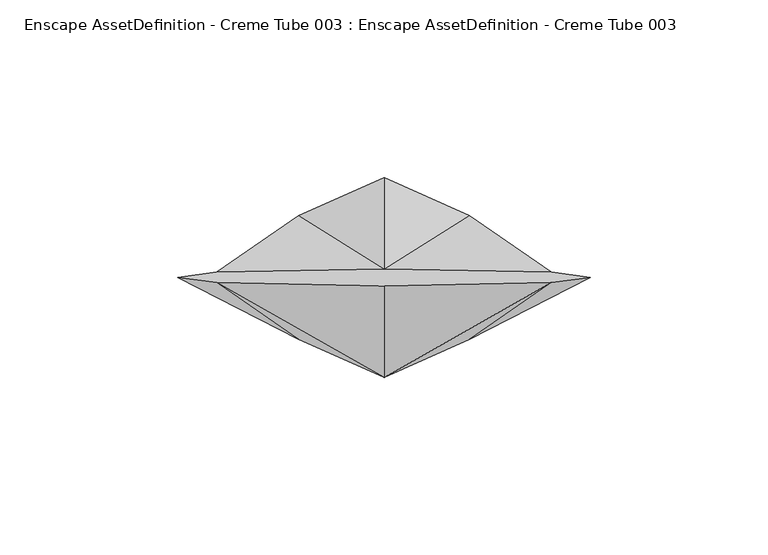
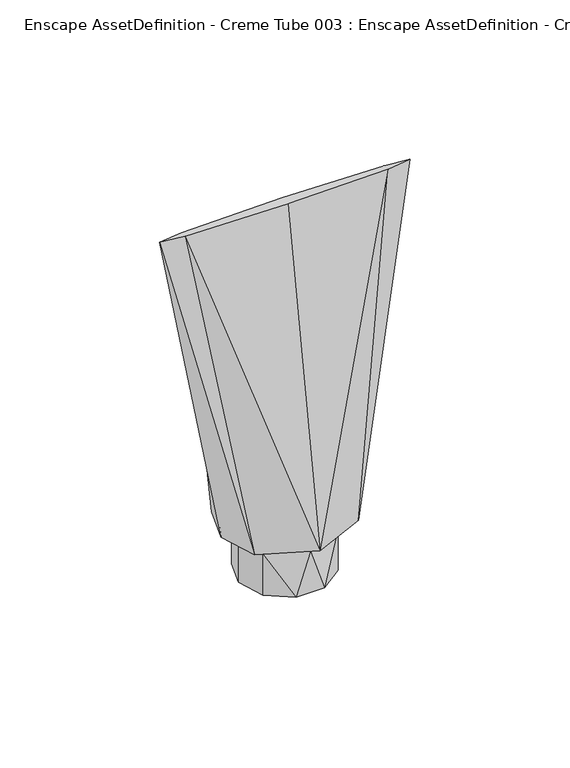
"""IFC4 building model written with IfcOpenShell, lengths in millimetres: geographic element geometry, Enscape AssetDefinition - Creme Tube 003 : Enscape AssetDefinition - Creme Tube 003."""

import ifcopenshell
import ifcopenshell.guid

model = None  # the IFC model being written
_history = None  # IfcOwnerHistory: only IFC2X3 demands one
_inside = {}  # id of a spatial element -> (the spatial element, [elements in it])
_under = {}  # id of a project, library or spatial element -> (it, [spatial elements below it])
_declared = {}  # id of a project -> (the project, [libraries it declares])
_typed = {}  # id of a type object -> (the type object, [elements of that type])
_made_of = {}  # id of a material, layer set ... -> (it, [elements and type objects made of it])


def new_model(schema):
    """Start an empty IFC model of exactly this schema.

    Asked for "IFC4X3", IfcOpenShell would pick the latest addendum, in which some entities
    have other attributes; the version numbers below select the first issue.
    IFC2X3 requires an IfcOwnerHistory on every rooted entity: one is made here for all.
    """
    global model, _history
    if schema == "IFC4X3":
        model = ifcopenshell.file(schema_version=(4, 3, 0, 0))
    else:
        model = ifcopenshell.file(schema=schema)
    _inside.clear()
    _under.clear()
    _declared.clear()
    _typed.clear()
    _made_of.clear()
    _history = None
    if model.schema == "IFC2X3":
        org = make("IfcOrganization", Name="unknown")
        user = make(
            "IfcPersonAndOrganization",
            ThePerson=make("IfcPerson", FamilyName="unknown"),
            TheOrganization=org,
        )
        app = make(
            "IfcApplication",
            ApplicationDeveloper=org,
            Version="unknown",
            ApplicationFullName="unknown",
            ApplicationIdentifier="unknown",
        )
        _history = make(
            "IfcOwnerHistory",
            OwningUser=user,
            OwningApplication=app,
            ChangeAction="ADDED",
            CreationDate=0,
        )
    return model


def make(cls, **values):
    """One entity of the class cls with the attributes given. An attribute that is None is left unset."""
    return model.create_entity(
        cls, **{name: value for name, value in values.items() if value is not None}
    )


def rooted(cls, **values):
    """An entity with a GlobalId (a new one), such as an element, a storey or a relation."""
    return make(cls, GlobalId=ifcopenshell.guid.new(), OwnerHistory=_history, **values)


def si_unit(unit_type, name, prefix=None):
    """IfcSIUnit, for example si_unit("LENGTHUNIT", "METRE", prefix="MILLI")."""
    return make("IfcSIUnit", UnitType=unit_type, Prefix=prefix, Name=name)


def assignment(units):
    """IfcUnitAssignment: the units of a project."""
    return None if units is None else make("IfcUnitAssignment", Units=units)


def point(xyz):
    """IfcCartesianPoint."""
    return None if xyz is None else make("IfcCartesianPoint", Coordinates=xyz)


def direction(xyz):
    """IfcDirection."""
    return None if xyz is None else make("IfcDirection", DirectionRatios=xyz)


def frame(location, z_axis=None, x_axis=None):
    """IfcAxis2Placement3D, a coordinate frame: its origin and axes. An axis left out is left unset."""
    return make(
        "IfcAxis2Placement3D",
        Location=point(location),
        Axis=direction(z_axis),
        RefDirection=direction(x_axis),
    )


def origin():
    """The frame at (0, 0, 0) with its axes left unset."""
    return frame((0.0, 0.0, 0.0))


def place(relative_to, where):
    """IfcLocalPlacement: puts the frame where relative to a parent placement (None: the world)."""
    return make(
        "IfcLocalPlacement", PlacementRelTo=relative_to, RelativePlacement=where
    )


def context(
    kind, dimensions, precision=None, world=None, true_north=None, identifier=None
):
    """IfcGeometricRepresentationContext, for example the 3D "Model" context."""
    return make(
        "IfcGeometricRepresentationContext",
        ContextIdentifier=identifier,
        ContextType=kind,
        CoordinateSpaceDimension=dimensions,
        Precision=precision,
        WorldCoordinateSystem=world,
        TrueNorth=true_north,
    )


def project(units=None, contexts=None):
    """IfcProject with its units and contexts."""
    return rooted(
        "IfcProject",
        Name="project",
        RepresentationContexts=contexts,
        UnitsInContext=assignment(units),
    )


def spatial(cls, under=None, at=None, **own):
    """A site, building, storey or space (cls), placed at a placement, below another one or the project."""
    s = rooted(cls, ObjectPlacement=at, **own)
    if under is not None:
        _under.setdefault(under.id(), (under, []))[1].append(s)
    return s


def point_list(points):
    """IfcCartesianPointList2D or 3D."""
    cls = (
        "IfcCartesianPointList2D" if len(points[0]) == 2 else "IfcCartesianPointList3D"
    )
    return make(cls, CoordList=points)


def triangles(points, corners, closed=None, point_numbers=None):
    """IfcTriangulatedFaceSet: each triangle names its three corners, points numbered from 1."""
    return make(
        "IfcTriangulatedFaceSet",
        Coordinates=point_list(points),
        Closed=closed,
        CoordIndex=corners,
        PnIndex=point_numbers,
    )


def shape(context_of_items, identifier, shape_type, items):
    """IfcShapeRepresentation: the items that make up one representation, for example the "Body"."""
    return make(
        "IfcShapeRepresentation",
        ContextOfItems=context_of_items,
        RepresentationIdentifier=identifier,
        RepresentationType=shape_type,
        Items=items,
    )


def source(mapping_origin, context_of_items, identifier, shape_type, items):
    """IfcRepresentationMap: a shape defined once, which mapped items show again and again."""
    return make(
        "IfcRepresentationMap",
        MappingOrigin=mapping_origin,
        MappedRepresentation=shape(context_of_items, identifier, shape_type, items),
    )


def transform(
    local_origin,
    x_axis=None,
    y_axis=None,
    z_axis=None,
    scale=None,
    scale2=None,
    scale3=None,
    uniform=True,
):
    """IfcCartesianTransformationOperator3D, or its non-uniform kind. x_axis, y_axis, z_axis: its Axis1, 2, 3."""
    if uniform:
        return make(
            "IfcCartesianTransformationOperator3D",
            Axis1=direction(x_axis),
            Axis2=direction(y_axis),
            LocalOrigin=point(local_origin),
            Scale=scale,
            Axis3=direction(z_axis),
        )
    return make(
        "IfcCartesianTransformationOperator3DnonUniform",
        Axis1=direction(x_axis),
        Axis2=direction(y_axis),
        LocalOrigin=point(local_origin),
        Scale=scale,
        Axis3=direction(z_axis),
        Scale2=scale2,
        Scale3=scale3,
    )


def mapped(mapping_source, mapping_target):
    """IfcMappedItem: shows the shape of a source again, moved by a transform."""
    return make(
        "IfcMappedItem", MappingSource=mapping_source, MappingTarget=mapping_target
    )


def made_of(thing, what):
    """Note that an element or type object is made of a material, layer set ...; save() writes the relation."""
    if what is not None:
        _made_of.setdefault(what.id(), (what, []))[1].append(thing)
    return thing


def element(
    cls,
    number,
    at=None,
    inside=None,
    cuts=None,
    type_object=None,
    material=None,
    context=None,
    identifier="Body",
    shape_type=None,
    held_by="IfcProductDefinitionShape",
    body=None,
    shapes=None,
    **own,
):
    """One element of the class cls, such as IfcWall. Its Tag is "e" and its number.

    at: its placement. inside: the storey or other place that contains it. cuts: it is an
    opening in that element (IfcRelVoidsElement). A single representation is given by context,
    identifier, shape_type and body (its items); several are given by shapes. held_by: the class
    of the entity that holds the representations. save() writes the other relations.
    """
    e = rooted(cls, Tag="e%d" % number, ObjectPlacement=at, **own)
    if body is not None:
        shapes = [shape(context, identifier, shape_type, body)]
    if shapes is not None:
        e.Representation = make(held_by, Representations=shapes)
    if inside is not None:
        _inside.setdefault(inside.id(), (inside, []))[1].append(e)
    if cuts is not None:
        rooted(
            "IfcRelVoidsElement", RelatingBuildingElement=cuts, RelatedOpeningElement=e
        )
    if type_object is not None:
        _typed.setdefault(type_object.id(), (type_object, []))[1].append(e)
    return made_of(e, material)


def aggregate(whole, parts):
    """IfcRelAggregates: a whole, such as a stair, and the parts it consists of."""
    return rooted("IfcRelAggregates", RelatingObject=whole, RelatedObjects=parts)


def save(model, path):
    """Write the relations noted so far, then the file.

    IfcRelAggregates (storeys below a building ...), IfcRelContainedInSpatialStructure (elements
    in a storey), IfcRelDefinesByType, IfcRelAssociatesMaterial and IfcRelDeclares: one each for
    every whole, place, type object, material and project.
    """
    for whole, parts in _under.values():
        aggregate(whole, parts)
    for where, things in _inside.values():
        rooted(
            "IfcRelContainedInSpatialStructure",
            RelatedElements=things,
            RelatingStructure=where,
        )
    for kind, things in _typed.values():
        rooted("IfcRelDefinesByType", RelatedObjects=things, RelatingType=kind)
    for what, things in _made_of.values():
        rooted("IfcRelAssociatesMaterial", RelatedObjects=things, RelatingMaterial=what)
    for by, libraries in _declared.values():
        rooted("IfcRelDeclares", RelatingContext=by, RelatedDefinitions=libraries)
    model.write(path)


def enscape_assetdefinition_creme_tube_003_enscape_29d52560(model_context):
    return source(origin(), model_context, "Body", "Tessellation", [
        triangles([(24.0049437, 17.4402236, 25.0274967), (21.5050963, 0.0, 0.0), (21.5050963, 0.0, 20.0420157), (29.6713016, 0.0, 25.0274967), (47.0559168, 1.4754404, 179.5118989), (24.0049437, -17.4402236, 25.0274967), (58.1643549, 0.0, 179.5118989), (17.3982102, -12.6407187, 20.0420157), (0.0, -28.2193395, 25.0274967), (47.0559168, -1.4754404, 179.5118989), (0.0, 2.3880137, 179.5118989), (0.0, -2.3880137, 179.5118989), (-47.0559168, -1.4754404, 179.5118989), (-47.0559168, 1.4754404, 179.5118989), (-24.0049437, 17.4402236, 25.0274967), (-58.1643549, 0.0, 179.5118989), (-24.0049437, -17.4402236, 25.0274967), (-29.6713016, 0.0, 25.0274967), (-21.5050963, 0.0, 20.0420157), (-17.3982102, 12.6407187, 20.0420157), (-17.3982102, 12.6407187, 0.0), (-21.5050963, 0.0, 0.0), (0.0, 28.2193395, 25.0274967), (0.0, 20.4528895, 20.0420157), (-17.3982102, -12.6407187, 0.0), (-6.6456597, -20.4528895, 0.0), (-6.6456597, 20.4528895, 0.0), (17.3982102, 12.6407187, 0.0), (6.6456597, 20.4528895, 0.0), (17.3982102, -12.6407187, 0.0), (6.6456597, -20.4528895, 0.0), (0.0, -20.4528895, 20.0420157), (-17.3982102, -12.6407187, 20.0420157), (17.3982102, 12.6407187, 20.0420157)], [[23, 1, 34], [33, 25, 26], [9, 17, 33], [26, 32, 33], [33, 32, 9], [32, 26, 31], [8, 32, 31], [9, 32, 8], [30, 31, 26], [31, 30, 8], [8, 30, 2], [30, 26, 28], [2, 30, 28], [34, 28, 29], [29, 24, 34], [34, 24, 23], [27, 29, 28], [24, 29, 27], [26, 22, 28], [22, 27, 28], [26, 25, 22], [22, 25, 33], [22, 21, 27], [27, 21, 20], [20, 24, 27], [23, 24, 20], [33, 19, 22], [21, 22, 19], [19, 20, 21], [20, 15, 23], [15, 20, 19], [18, 19, 33], [33, 17, 18], [19, 18, 15], [16, 18, 17], [17, 13, 16], [13, 17, 9], [14, 16, 13], [14, 15, 18], [18, 16, 14], [11, 23, 15], [15, 14, 11], [1, 23, 11], [14, 13, 12], [12, 11, 14], [9, 12, 13], [10, 12, 9], [12, 10, 5], [5, 11, 12], [11, 5, 1], [10, 7, 5], [7, 10, 6], [9, 6, 10], [8, 6, 9], [6, 4, 7], [5, 7, 4], [4, 1, 5], [4, 6, 8], [2, 3, 8], [28, 34, 3], [3, 2, 28], [8, 3, 4], [1, 4, 3], [3, 34, 1]]),
    ])


if __name__ == "__main__":
    model = new_model("IFC4")
    model_context = context("Model", 3, world=origin())
    ifc_project = project(units=[si_unit("LENGTHUNIT", "METRE", prefix="MILLI")], contexts=[model_context])
    site = spatial("IfcSite", under=ifc_project)
    building = spatial("IfcBuilding", under=site)
    placement = place(None, origin())
    enscape_assetdefinition_creme_tube_003_enscape_shape = enscape_assetdefinition_creme_tube_003_enscape_29d52560(model_context)
    element("IfcGeographicElement", 1, ObjectType="Enscape AssetDefinition - Creme Tube 003 : Enscape AssetDefinition - Creme Tube 003", at=placement, inside=building, context=model_context, shape_type="MappedRepresentation", body=[
        mapped(enscape_assetdefinition_creme_tube_003_enscape_shape, transform((0.0, 0.0, 0.0), x_axis=(1.0, 0.0, 0.0), y_axis=(0.0, 1.0, 0.0), z_axis=(0.0, 0.0, 1.0))),
    ])
    save(model, "model.ifc")
